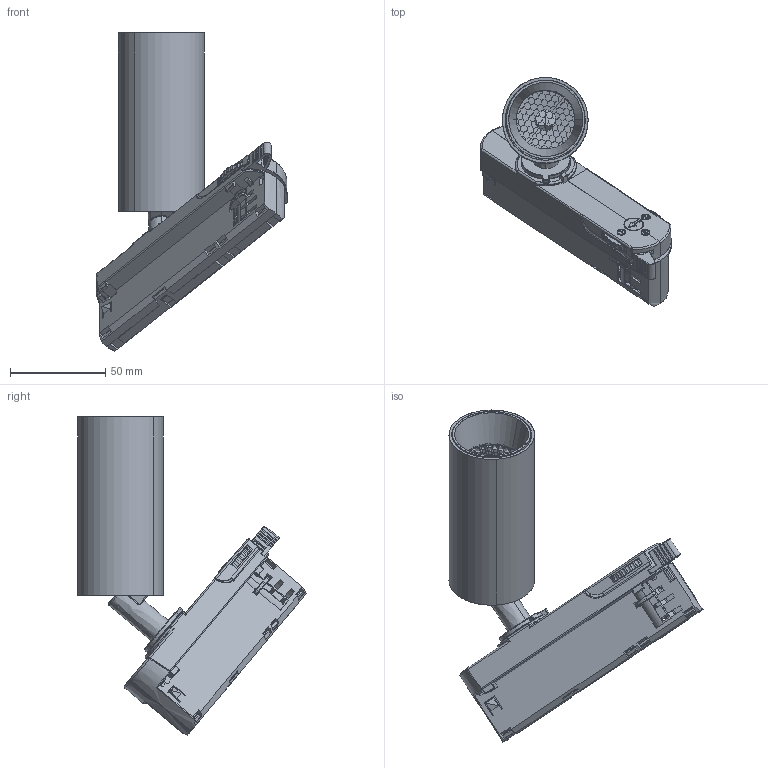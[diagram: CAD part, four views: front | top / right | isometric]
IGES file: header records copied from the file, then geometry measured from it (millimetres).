
Start section: SolidWorks IGES file using analytic representation for surfaces
Global section: file name: \\192.168.111.232\grupos\DISENYO\DESARROLLO DE PRODUCTO\PIPE-3986\WIP\PIPE TRACK - T3986000 - 45\PIPE TRACK - T3986000 - 45.IGS; native system: SolidWorks 2024; preprocessor: SolidWorks 2024; author: n.borazjanizadeh; date: 240918.125231; units: millimetre
Bounding box: 100.58 x 120.25 x 167.13 mm (x, y, z)
Surface area: 63541.1 mm2 (no closed solid volume)
Topology: 0 solids, 0 shells, 1047 faces, 11571 edges, 11544 vertices
Faces by surface type: bspline 723, revolution 324
